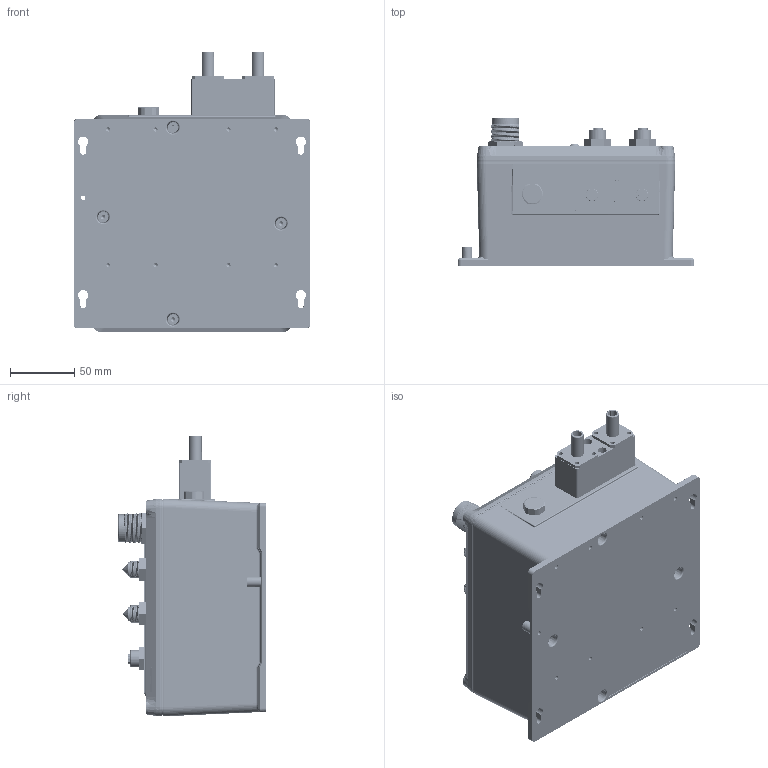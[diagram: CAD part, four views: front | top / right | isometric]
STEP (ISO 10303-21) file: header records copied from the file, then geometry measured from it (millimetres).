
FILE_DESCRIPTION((''),'2;1');
FILE_NAME('3D_TN-5510A-8POE-ODC','2015-01-07T',('Vincent_Huang'),(''),'PRO/ENGINEER BY PARAMETRIC TECHNOLOGY CORPORATION, 2004320','PRO/ENGINEER BY PARAMETRIC TECHNOLOGY CORPORATION, 2004320','');
FILE_SCHEMA(('CONFIG_CONTROL_DESIGN'));
Products named in the file (1): 3D_TN-5510A-8POE-ODC
Bounding box: 185 x 115.8 x 219.3 mm (x, y, z)
Surface area: 742010.5 mm2 (no closed solid volume)
Topology: 0 solids, 195 shells, 13229 faces, 35725 edges, 23059 vertices
Faces by surface type: plane 7561, cylinder 3098, cone 1123, bspline 803, torus 448, sphere 196
Entity records: 477866 total; most frequent: CARTESIAN_POINT 151282, ORIENTED_EDGE 70450, DIRECTION 63188, EDGE_CURVE 35389, VERTEX_POINT 23053, VECTOR 22836, LINE 22836, AXIS2_PLACEMENT_3D 20176
